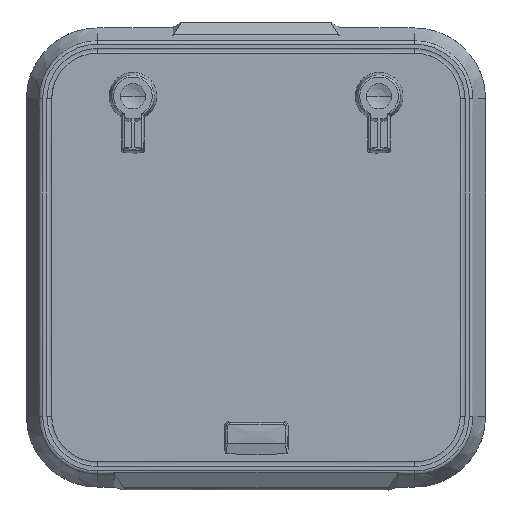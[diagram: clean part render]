
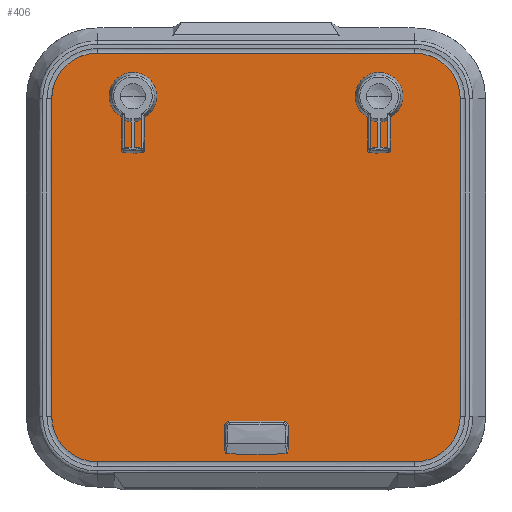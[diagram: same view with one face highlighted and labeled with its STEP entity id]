
A CAD part, front view. The second image highlights one B-rep face of the part: STEP entity #406.
In plain terms, the highlighted planar face has unit normal (0, -1, 0).
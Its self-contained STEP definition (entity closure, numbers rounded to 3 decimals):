
#1=CARTESIAN_POINT('',(85.8,0.,-45.5));
#2=DIRECTION('',(0.,-1.,0.));
#3=DIRECTION('',(1.,0.,0.));
#4=AXIS2_PLACEMENT_3D('',#1,#2,#3);
#6=CARTESIAN_POINT('',(85.8,0.,-45.5));
#7=DIRECTION('',(0.,-1.,0.));
#8=DIRECTION('',(-1.,0.,0.));
#9=AXIS2_PLACEMENT_3D('',#6,#7,#8);
#11=CARTESIAN_POINT('',(345.8,0.,-45.5));
#12=DIRECTION('',(0.,-1.,0.));
#13=DIRECTION('',(1.,0.,0.));
#14=AXIS2_PLACEMENT_3D('',#11,#12,#13);
#16=CARTESIAN_POINT('',(345.8,0.,-45.5));
#17=DIRECTION('',(0.,-1.,0.));
#18=DIRECTION('',(-1.,0.,0.));
#19=AXIS2_PLACEMENT_3D('',#16,#17,#18);
#21=CARTESIAN_POINT('',(100.955,0.,-54.25));
#22=DIRECTION('',(0.,-1.,0.));
#23=DIRECTION('',(1.,0.,0.));
#24=AXIS2_PLACEMENT_3D('',#21,#22,#23);
#26=CARTESIAN_POINT('',(100.955,0.,-54.25));
#27=DIRECTION('',(0.,-1.,0.));
#28=DIRECTION('',(-1.,0.,0.));
#29=AXIS2_PLACEMENT_3D('',#26,#27,#28);
#31=CARTESIAN_POINT('',(330.645,0.,-54.25));
#32=DIRECTION('',(0.,-1.,0.));
#33=DIRECTION('',(1.,0.,0.));
#34=AXIS2_PLACEMENT_3D('',#31,#32,#33);
#36=CARTESIAN_POINT('',(330.645,0.,-54.25));
#37=DIRECTION('',(0.,-1.,0.));
#38=DIRECTION('',(-1.,0.,0.));
#39=AXIS2_PLACEMENT_3D('',#36,#37,#38);
#41=DIRECTION('',(1.,0.,0.));
#42=VECTOR('',#41,335.1);
#43=CARTESIAN_POINT('',(48.25,0.,0.));
#44=LINE('',#43,#42);
#45=CARTESIAN_POINT('',(383.35,0.,-48.25));
#46=DIRECTION('',(0.,1.,0.));
#47=DIRECTION('',(0.,0.,1.));
#48=AXIS2_PLACEMENT_3D('',#45,#46,#47);
#50=DIRECTION('',(0.,0.,-1.));
#51=VECTOR('',#50,335.1);
#52=CARTESIAN_POINT('',(431.6,0.,-48.25));
#53=LINE('',#52,#51);
#54=CARTESIAN_POINT('',(383.35,0.,-383.35));
#55=DIRECTION('',(0.,1.,0.));
#56=DIRECTION('',(1.,0.,0.));
#57=AXIS2_PLACEMENT_3D('',#54,#55,#56);
#59=DIRECTION('',(-1.,0.,0.));
#60=VECTOR('',#59,335.1);
#61=CARTESIAN_POINT('',(383.35,0.,-431.6));
#62=LINE('',#61,#60);
#63=CARTESIAN_POINT('',(48.25,0.,-383.35));
#64=DIRECTION('',(0.,1.,0.));
#65=DIRECTION('',(0.,0.,-1.));
#66=AXIS2_PLACEMENT_3D('',#63,#64,#65);
#68=DIRECTION('',(0.,0.,1.));
#69=VECTOR('',#68,335.1);
#70=CARTESIAN_POINT('',(0.,0.,-383.35));
#71=LINE('',#70,#69);
#72=CARTESIAN_POINT('',(48.25,0.,-48.25));
#73=DIRECTION('',(0.,1.,0.));
#74=DIRECTION('',(-1.,0.,0.));
#75=AXIS2_PLACEMENT_3D('',#72,#73,#74);
#77=CARTESIAN_POINT('',(237.3,0.,-400.6));
#78=DIRECTION('',(0.,-1.,0.));
#79=DIRECTION('',(0.,0.,-1.));
#80=AXIS2_PLACEMENT_3D('',#77,#78,#79);
#82=DIRECTION('',(-1.,0.,0.));
#83=VECTOR('',#82,43.);
#84=CARTESIAN_POINT('',(237.3,0.,-395.1));
#85=LINE('',#84,#83);
#86=CARTESIAN_POINT('',(194.3,0.,-400.6));
#87=DIRECTION('',(0.,-1.,0.));
#88=DIRECTION('',(0.,0.,1.));
#89=AXIS2_PLACEMENT_3D('',#86,#87,#88);
#91=DIRECTION('',(1.,0.,0.));
#92=VECTOR('',#91,43.);
#93=CARTESIAN_POINT('',(194.3,0.,-406.1));
#94=LINE('',#93,#92);
#269=CARTESIAN_POINT('',(48.25,0.,0.));
#270=CARTESIAN_POINT('',(383.35,0.,0.));
#271=VERTEX_POINT('',#269);
#272=VERTEX_POINT('',#270);
#273=CARTESIAN_POINT('',(431.6,0.,-48.25));
#274=VERTEX_POINT('',#273);
#275=CARTESIAN_POINT('',(431.6,0.,-383.35));
#276=VERTEX_POINT('',#275);
#277=CARTESIAN_POINT('',(383.35,0.,-431.6));
#278=VERTEX_POINT('',#277);
#279=CARTESIAN_POINT('',(48.25,0.,-431.6));
#280=VERTEX_POINT('',#279);
#281=CARTESIAN_POINT('',(0.,0.,-383.35));
#282=VERTEX_POINT('',#281);
#283=CARTESIAN_POINT('',(0.,0.,-48.25));
#284=VERTEX_POINT('',#283);
#285=CARTESIAN_POINT('',(237.3,0.,-406.1));
#286=CARTESIAN_POINT('',(237.3,0.,-395.1));
#287=VERTEX_POINT('',#285);
#288=VERTEX_POINT('',#286);
#289=CARTESIAN_POINT('',(194.3,0.,-395.1));
#290=VERTEX_POINT('',#289);
#291=CARTESIAN_POINT('',(194.3,0.,-406.1));
#292=VERTEX_POINT('',#291);
#317=CARTESIAN_POINT('',(93.3,0.,-45.5));
#318=CARTESIAN_POINT('',(78.3,0.,-45.5));
#319=VERTEX_POINT('',#317);
#320=VERTEX_POINT('',#318);
#321=CARTESIAN_POINT('',(353.3,0.,-45.5));
#322=CARTESIAN_POINT('',(338.3,0.,-45.5));
#323=VERTEX_POINT('',#321);
#324=VERTEX_POINT('',#322);
#325=CARTESIAN_POINT('',(104.293,0.,-54.25));
#326=CARTESIAN_POINT('',(97.618,0.,-54.25));
#327=VERTEX_POINT('',#325);
#328=VERTEX_POINT('',#326);
#329=CARTESIAN_POINT('',(333.982,0.,-54.25));
#330=CARTESIAN_POINT('',(327.307,0.,-54.25));
#331=VERTEX_POINT('',#329);
#332=VERTEX_POINT('',#330);
#349=CARTESIAN_POINT('',(0.,0.,0.));
#350=DIRECTION('',(0.,1.,0.));
#351=DIRECTION('',(1.,0.,0.));
#352=AXIS2_PLACEMENT_3D('',#349,#350,#351);
#353=PLANE('',#352);
#355=ORIENTED_EDGE('',*,*,#354,.T.);
#357=ORIENTED_EDGE('',*,*,#356,.T.);
#359=ORIENTED_EDGE('',*,*,#358,.T.);
#361=ORIENTED_EDGE('',*,*,#360,.T.);
#363=ORIENTED_EDGE('',*,*,#362,.T.);
#365=ORIENTED_EDGE('',*,*,#364,.T.);
#367=ORIENTED_EDGE('',*,*,#366,.T.);
#369=ORIENTED_EDGE('',*,*,#368,.T.);
#370=EDGE_LOOP('',(#355,#357,#359,#361,#363,#365,#367,#369));
#371=FACE_OUTER_BOUND('',#370,.F.);
#373=ORIENTED_EDGE('',*,*,#372,.T.);
#375=ORIENTED_EDGE('',*,*,#374,.T.);
#376=EDGE_LOOP('',(#373,#375));
#377=FACE_BOUND('',#376,.F.);
#379=ORIENTED_EDGE('',*,*,#378,.T.);
#381=ORIENTED_EDGE('',*,*,#380,.T.);
#382=EDGE_LOOP('',(#379,#381));
#383=FACE_BOUND('',#382,.F.);
#385=ORIENTED_EDGE('',*,*,#384,.T.);
#387=ORIENTED_EDGE('',*,*,#386,.T.);
#388=EDGE_LOOP('',(#385,#387));
#389=FACE_BOUND('',#388,.F.);
#391=ORIENTED_EDGE('',*,*,#390,.T.);
#393=ORIENTED_EDGE('',*,*,#392,.T.);
#394=EDGE_LOOP('',(#391,#393));
#395=FACE_BOUND('',#394,.F.);
#397=ORIENTED_EDGE('',*,*,#396,.T.);
#399=ORIENTED_EDGE('',*,*,#398,.T.);
#401=ORIENTED_EDGE('',*,*,#400,.T.);
#403=ORIENTED_EDGE('',*,*,#402,.T.);
#404=EDGE_LOOP('',(#397,#399,#401,#403));
#405=FACE_BOUND('',#404,.F.);
#406=ADVANCED_FACE('',(#371,#377,#383,#389,#395,#405),#353,.F.);
#5=CIRCLE('',#4,7.5);
#10=CIRCLE('',#9,7.5);
#15=CIRCLE('',#14,7.5);
#20=CIRCLE('',#19,7.5);
#25=CIRCLE('',#24,3.338);
#30=CIRCLE('',#29,3.338);
#35=CIRCLE('',#34,3.338);
#40=CIRCLE('',#39,3.338);
#49=CIRCLE('',#48,48.25);
#58=CIRCLE('',#57,48.25);
#67=CIRCLE('',#66,48.25);
#76=CIRCLE('',#75,48.25);
#81=CIRCLE('',#80,5.5);
#90=CIRCLE('',#89,5.5);
#354=EDGE_CURVE('',#271,#272,#44,.T.);
#356=EDGE_CURVE('',#272,#274,#49,.T.);
#358=EDGE_CURVE('',#274,#276,#53,.T.);
#360=EDGE_CURVE('',#276,#278,#58,.T.);
#362=EDGE_CURVE('',#278,#280,#62,.T.);
#364=EDGE_CURVE('',#280,#282,#67,.T.);
#366=EDGE_CURVE('',#282,#284,#71,.T.);
#368=EDGE_CURVE('',#284,#271,#76,.T.);
#372=EDGE_CURVE('',#319,#320,#5,.T.);
#374=EDGE_CURVE('',#320,#319,#10,.T.);
#378=EDGE_CURVE('',#323,#324,#15,.T.);
#380=EDGE_CURVE('',#324,#323,#20,.T.);
#384=EDGE_CURVE('',#327,#328,#25,.T.);
#386=EDGE_CURVE('',#328,#327,#30,.T.);
#390=EDGE_CURVE('',#331,#332,#35,.T.);
#392=EDGE_CURVE('',#332,#331,#40,.T.);
#396=EDGE_CURVE('',#287,#288,#81,.T.);
#398=EDGE_CURVE('',#288,#290,#85,.T.);
#400=EDGE_CURVE('',#290,#292,#90,.T.);
#402=EDGE_CURVE('',#292,#287,#94,.T.);
